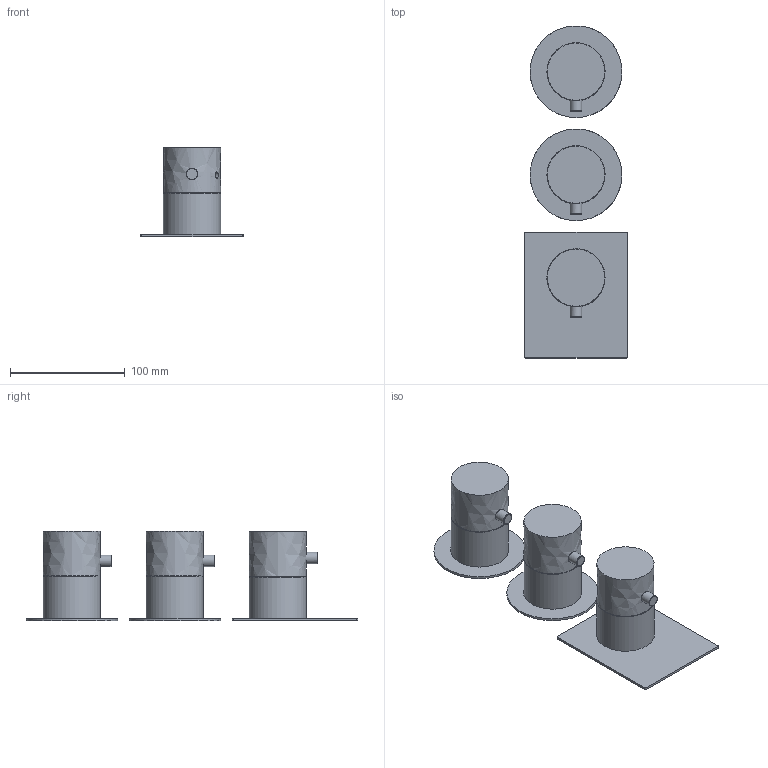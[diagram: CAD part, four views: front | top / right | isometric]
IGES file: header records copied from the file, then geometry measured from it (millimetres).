
Global section: file name: PR47HD201; native system: Autodesk Inventor 2017; preprocessor: unknown; author: CIANI A.; date: 20190211.112219; units: millimetre
Bounding box: 90 x 289.96 x 78.5 mm (x, y, z)
Volume: 490557.3 mm3; surface area: 85109.1 mm2
Topology: 4 solids, 4 shells, 103 faces, 230 edges, 165 vertices
Faces by surface type: bspline 103
